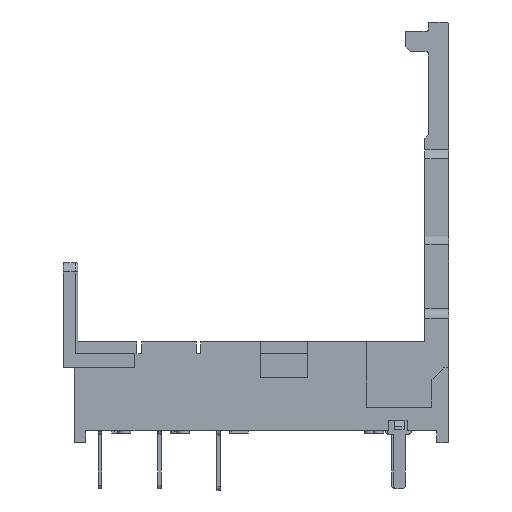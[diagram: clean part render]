
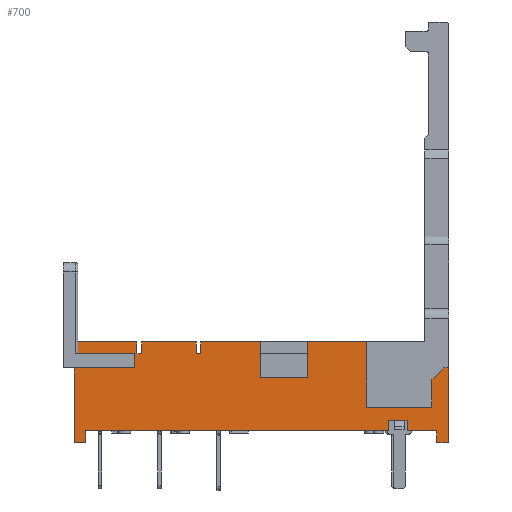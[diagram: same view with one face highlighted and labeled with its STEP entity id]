
A CAD part, front view. The second image highlights one B-rep face of the part: STEP entity #700.
In plain terms, the highlighted planar face has unit normal (0, -1, 0).
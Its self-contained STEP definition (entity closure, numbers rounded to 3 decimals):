
#700=ADVANCED_FACE('',(#2100),#1420,.T.);
#1420=PLANE('',#15637);
#2100=FACE_OUTER_BOUND('',#2885,.T.);
#2885=EDGE_LOOP('',(#8651,#8652,#8653,#8654,#8655,#8656,#8657,#8658,#8659,
#8660,#8661,#8662,#8663,#8664,#8665,#8666,#8667,#8668,#8669,#8670,#8671,
#8672,#8673,#8674,#8675,#8676,#8677,#8678,#8679,#8680,#8681,#8682,#8683));
#3866=LINE('',#21455,#5719);
#3914=LINE('',#21559,#5767);
#3944=LINE('',#21673,#5797);
#3950=LINE('',#21685,#5803);
#4068=LINE('',#21932,#5921);
#4071=LINE('',#21938,#5924);
#4075=LINE('',#21947,#5928);
#4079=LINE('',#21955,#5932);
#4082=LINE('',#21961,#5935);
#4087=LINE('',#21972,#5940);
#4091=LINE('',#21979,#5944);
#4092=LINE('',#21981,#5945);
#4097=LINE('',#21990,#5950);
#4101=LINE('',#21998,#5954);
#4105=LINE('',#22005,#5958);
#4123=LINE('',#22039,#5976);
#4130=LINE('',#22053,#5983);
#4139=LINE('',#22071,#5992);
#4150=LINE('',#22101,#6003);
#4151=LINE('',#22103,#6004);
#4152=LINE('',#22105,#6005);
#4153=LINE('',#22107,#6006);
#4154=LINE('',#22108,#6007);
#4155=LINE('',#22110,#6008);
#4156=LINE('',#22112,#6009);
#4157=LINE('',#22114,#6010);
#4158=LINE('',#22116,#6011);
#4159=LINE('',#22118,#6012);
#4160=LINE('',#22120,#6013);
#4161=LINE('',#22122,#6014);
#4162=LINE('',#22124,#6015);
#4163=LINE('',#22125,#6016);
#4164=LINE('',#22127,#6017);
#5719=VECTOR('',#17192,1.);
#5767=VECTOR('',#17248,1.);
#5797=VECTOR('',#17280,1.);
#5803=VECTOR('',#17286,1.);
#5921=VECTOR('',#17460,1.);
#5924=VECTOR('',#17465,1.);
#5928=VECTOR('',#17471,1.);
#5932=VECTOR('',#17477,1.);
#5935=VECTOR('',#17482,1.);
#5940=VECTOR('',#17489,1.);
#5944=VECTOR('',#17499,1.);
#5945=VECTOR('',#17502,1.);
#5950=VECTOR('',#17515,1.);
#5954=VECTOR('',#17523,1.);
#5958=VECTOR('',#17529,1.);
#5976=VECTOR('',#17567,1.);
#5983=VECTOR('',#17584,1.);
#5992=VECTOR('',#17601,1.);
#6003=VECTOR('',#17628,1.);
#6004=VECTOR('',#17631,1.);
#6005=VECTOR('',#17632,1.);
#6006=VECTOR('',#17633,1.);
#6007=VECTOR('',#17634,1.);
#6008=VECTOR('',#17635,1.);
#6009=VECTOR('',#17636,1.);
#6010=VECTOR('',#17637,1.);
#6011=VECTOR('',#17638,1.);
#6012=VECTOR('',#17639,1.);
#6013=VECTOR('',#17640,1.);
#6014=VECTOR('',#17641,1.);
#6015=VECTOR('',#17642,1.);
#6016=VECTOR('',#17643,1.);
#6017=VECTOR('',#17644,1.);
#8651=ORIENTED_EDGE('',*,*,#13842,.F.);
#8652=ORIENTED_EDGE('',*,*,#13843,.T.);
#8653=ORIENTED_EDGE('',*,*,#13844,.F.);
#8654=ORIENTED_EDGE('',*,*,#13591,.F.);
#8655=ORIENTED_EDGE('',*,*,#13792,.F.);
#8656=ORIENTED_EDGE('',*,*,#13774,.F.);
#8657=ORIENTED_EDGE('',*,*,#13817,.F.);
#8658=ORIENTED_EDGE('',*,*,#13769,.T.);
#8659=ORIENTED_EDGE('',*,*,#13766,.T.);
#8660=ORIENTED_EDGE('',*,*,#13762,.T.);
#8661=ORIENTED_EDGE('',*,*,#13758,.T.);
#8662=ORIENTED_EDGE('',*,*,#13778,.T.);
#8663=ORIENTED_EDGE('',*,*,#13632,.T.);
#8664=ORIENTED_EDGE('',*,*,#13779,.F.);
#8665=ORIENTED_EDGE('',*,*,#13755,.F.);
#8666=ORIENTED_EDGE('',*,*,#13784,.F.);
#8667=ORIENTED_EDGE('',*,*,#13626,.T.);
#8668=ORIENTED_EDGE('',*,*,#13845,.F.);
#8669=ORIENTED_EDGE('',*,*,#13846,.T.);
#8670=ORIENTED_EDGE('',*,*,#13847,.T.);
#8671=ORIENTED_EDGE('',*,*,#13848,.T.);
#8672=ORIENTED_EDGE('',*,*,#13849,.F.);
#8673=ORIENTED_EDGE('',*,*,#13850,.T.);
#8674=ORIENTED_EDGE('',*,*,#13851,.T.);
#8675=ORIENTED_EDGE('',*,*,#13852,.T.);
#8676=ORIENTED_EDGE('',*,*,#13853,.F.);
#8677=ORIENTED_EDGE('',*,*,#13826,.F.);
#8678=ORIENTED_EDGE('',*,*,#13841,.F.);
#8679=ORIENTED_EDGE('',*,*,#13854,.F.);
#8680=ORIENTED_EDGE('',*,*,#13855,.T.);
#8681=ORIENTED_EDGE('',*,*,#13810,.T.);
#8682=ORIENTED_EDGE('',*,*,#13788,.T.);
#8683=ORIENTED_EDGE('',*,*,#13539,.F.);
#11952=VERTEX_POINT('',#21434);
#11962=VERTEX_POINT('',#21454);
#11963=VERTEX_POINT('',#21456);
#12014=VERTEX_POINT('',#21558);
#12049=VERTEX_POINT('',#21672);
#12050=VERTEX_POINT('',#21674);
#12055=VERTEX_POINT('',#21684);
#12056=VERTEX_POINT('',#21686);
#12157=VERTEX_POINT('',#21933);
#12158=VERTEX_POINT('',#21934);
#12159=VERTEX_POINT('',#21939);
#12160=VERTEX_POINT('',#21940);
#12163=VERTEX_POINT('',#21948);
#12166=VERTEX_POINT('',#21956);
#12168=VERTEX_POINT('',#21962);
#12169=VERTEX_POINT('',#21966);
#12172=VERTEX_POINT('',#21971);
#12175=VERTEX_POINT('',#21999);
#12182=VERTEX_POINT('',#22037);
#12189=VERTEX_POINT('',#22070);
#12190=VERTEX_POINT('',#22072);
#12200=VERTEX_POINT('',#22100);
#12201=VERTEX_POINT('',#22104);
#12202=VERTEX_POINT('',#22106);
#12203=VERTEX_POINT('',#22109);
#12204=VERTEX_POINT('',#22111);
#12205=VERTEX_POINT('',#22113);
#12206=VERTEX_POINT('',#22115);
#12207=VERTEX_POINT('',#22117);
#12208=VERTEX_POINT('',#22119);
#12209=VERTEX_POINT('',#22121);
#12210=VERTEX_POINT('',#22123);
#12211=VERTEX_POINT('',#22126);
#13539=EDGE_CURVE('',#11962,#11963,#3866,.T.);
#13591=EDGE_CURVE('',#12014,#11952,#3914,.T.);
#13626=EDGE_CURVE('',#12050,#12049,#3944,.T.);
#13632=EDGE_CURVE('',#12056,#12055,#3950,.T.);
#13755=EDGE_CURVE('',#12157,#12158,#4068,.T.);
#13758=EDGE_CURVE('',#12159,#12160,#4071,.T.);
#13762=EDGE_CURVE('',#12163,#12159,#4075,.T.);
#13766=EDGE_CURVE('',#12166,#12163,#4079,.T.);
#13769=EDGE_CURVE('',#12168,#12166,#4082,.T.);
#13774=EDGE_CURVE('',#12172,#12169,#4087,.T.);
#13778=EDGE_CURVE('',#12160,#12056,#4091,.T.);
#13779=EDGE_CURVE('',#12158,#12055,#4092,.T.);
#13784=EDGE_CURVE('',#12050,#12157,#4097,.T.);
#13788=EDGE_CURVE('',#12175,#11963,#4101,.T.);
#13792=EDGE_CURVE('',#12169,#12014,#4105,.T.);
#13810=EDGE_CURVE('',#12182,#12175,#4123,.T.);
#13817=EDGE_CURVE('',#12168,#12172,#4130,.T.);
#13826=EDGE_CURVE('',#12189,#12190,#4139,.T.);
#13841=EDGE_CURVE('',#12200,#12189,#4150,.T.);
#13842=EDGE_CURVE('',#12201,#11962,#4151,.T.);
#13843=EDGE_CURVE('',#12201,#12202,#4152,.T.);
#13844=EDGE_CURVE('',#11952,#12202,#4153,.T.);
#13845=EDGE_CURVE('',#12203,#12049,#4154,.T.);
#13846=EDGE_CURVE('',#12203,#12204,#4155,.T.);
#13847=EDGE_CURVE('',#12204,#12205,#4156,.T.);
#13848=EDGE_CURVE('',#12205,#12206,#4157,.T.);
#13849=EDGE_CURVE('',#12207,#12206,#4158,.T.);
#13850=EDGE_CURVE('',#12207,#12208,#4159,.T.);
#13851=EDGE_CURVE('',#12208,#12209,#4160,.T.);
#13852=EDGE_CURVE('',#12209,#12210,#4161,.T.);
#13853=EDGE_CURVE('',#12190,#12210,#4162,.T.);
#13854=EDGE_CURVE('',#12211,#12200,#4163,.T.);
#13855=EDGE_CURVE('',#12211,#12182,#4164,.T.);
#15637=AXIS2_PLACEMENT_3D('',#22128,#17645,#17646);
#17192=DIRECTION('',(-1.,0.,0.));
#17248=DIRECTION('',(-1.,0.,0.));
#17280=DIRECTION('',(-1.,0.,0.));
#17286=DIRECTION('',(-1.,0.,0.));
#17460=DIRECTION('',(1.,0.,0.));
#17465=DIRECTION('',(-1.,0.,0.));
#17471=DIRECTION('',(0.,0.,-1.));
#17477=DIRECTION('',(-0.707,0.,-0.707));
#17482=DIRECTION('',(-1.,0.,0.));
#17489=DIRECTION('',(-1.,0.,0.));
#17499=DIRECTION('',(0.,0.,1.));
#17502=DIRECTION('',(0.,0.,1.));
#17515=DIRECTION('',(0.,0.,-1.));
#17523=DIRECTION('',(0.,0.,1.));
#17529=DIRECTION('',(0.,0.,1.));
#17567=DIRECTION('',(1.,0.,0.));
#17584=DIRECTION('',(0.,0.,-1.));
#17601=DIRECTION('',(-1.,0.,0.));
#17628=DIRECTION('',(0.,0.,1.));
#17631=DIRECTION('',(0.,0.,-1.));
#17632=DIRECTION('',(1.,0.,0.));
#17633=DIRECTION('',(0.,0.,1.));
#17634=DIRECTION('',(0.,0.,1.));
#17635=DIRECTION('',(-1.,0.,0.));
#17636=DIRECTION('',(0.,0.,1.));
#17637=DIRECTION('',(-1.,0.,0.));
#17638=DIRECTION('',(0.,0.,1.));
#17639=DIRECTION('',(-1.,0.,0.));
#17640=DIRECTION('',(0.,0.,1.));
#17641=DIRECTION('',(-1.,0.,0.));
#17642=DIRECTION('',(0.,0.,1.));
#17643=DIRECTION('',(1.,0.,0.));
#17644=DIRECTION('',(0.,0.,-1.));
#17645=DIRECTION('',(0.,-1.,0.));
#17646=DIRECTION('',(0.,0.,-1.));
#21434=CARTESIAN_POINT('',(-3.5,-6.5,0.));
#21454=CARTESIAN_POINT('',(-5.1,-6.5,0.));
#21455=CARTESIAN_POINT('',(0.,-6.5,0.));
#21456=CARTESIAN_POINT('',(-30.6,-6.5,0.));
#21558=CARTESIAN_POINT('',(-1.,-6.5,0.));
#21559=CARTESIAN_POINT('',(0.,-6.5,0.));
#21672=CARTESIAN_POINT('',(-20.9,-6.5,7.5));
#21673=CARTESIAN_POINT('',(0.,-6.5,7.5));
#21674=CARTESIAN_POINT('',(-15.9,-6.5,7.5));
#21684=CARTESIAN_POINT('',(-11.9,-6.5,7.5));
#21685=CARTESIAN_POINT('',(0.,-6.5,7.5));
#21686=CARTESIAN_POINT('',(-6.9,-6.5,7.5));
#21932=CARTESIAN_POINT('',(0.,-6.5,4.5));
#21933=CARTESIAN_POINT('',(-15.9,-6.5,4.5));
#21934=CARTESIAN_POINT('',(-11.9,-6.5,4.5));
#21938=CARTESIAN_POINT('',(0.,-6.5,2.));
#21939=CARTESIAN_POINT('',(-1.4,-6.5,2.));
#21940=CARTESIAN_POINT('',(-6.9,-6.5,2.));
#21947=CARTESIAN_POINT('',(-1.4,-6.5,7.5));
#21948=CARTESIAN_POINT('',(-1.4,-6.5,4.3));
#21955=CARTESIAN_POINT('',(0.9,-6.5,6.6));
#21956=CARTESIAN_POINT('',(-0.4,-6.5,5.3));
#21961=CARTESIAN_POINT('',(0.,-6.5,5.3));
#21962=CARTESIAN_POINT('',(0.,-6.5,5.3));
#21966=CARTESIAN_POINT('',(-1.,-6.5,-1.));
#21971=CARTESIAN_POINT('',(0.,-6.5,-1.));
#21972=CARTESIAN_POINT('',(0.,-6.5,-1.));
#21979=CARTESIAN_POINT('',(-6.9,-6.5,7.5));
#21981=CARTESIAN_POINT('',(-11.9,-6.5,7.5));
#21990=CARTESIAN_POINT('',(-15.9,-6.5,7.5));
#21998=CARTESIAN_POINT('',(-30.6,-6.5,-1.));
#21999=CARTESIAN_POINT('',(-30.6,-6.5,-1.));
#22005=CARTESIAN_POINT('',(-1.,-6.5,-1.));
#22037=CARTESIAN_POINT('',(-31.6,-6.5,-1.));
#22039=CARTESIAN_POINT('',(-31.6,-6.5,-1.));
#22053=CARTESIAN_POINT('',(0.,-6.5,7.5));
#22070=CARTESIAN_POINT('',(-26.5,-6.5,6.5));
#22071=CARTESIAN_POINT('',(0.,-6.5,6.5));
#22072=CARTESIAN_POINT('',(-31.3,-6.5,6.5));
#22100=CARTESIAN_POINT('',(-26.5,-6.5,5.3));
#22101=CARTESIAN_POINT('',(-26.5,-6.5,7.5));
#22103=CARTESIAN_POINT('',(-5.1,-6.5,7.5));
#22104=CARTESIAN_POINT('',(-5.1,-6.5,0.9));
#22105=CARTESIAN_POINT('',(0.,-6.5,0.9));
#22106=CARTESIAN_POINT('',(-3.5,-6.5,0.9));
#22107=CARTESIAN_POINT('',(-3.5,-6.5,7.5));
#22108=CARTESIAN_POINT('',(-20.9,-6.5,6.5));
#22109=CARTESIAN_POINT('',(-20.9,-6.5,6.5));
#22110=CARTESIAN_POINT('',(-20.9,-6.5,6.5));
#22111=CARTESIAN_POINT('',(-21.3,-6.5,6.5));
#22112=CARTESIAN_POINT('',(-21.3,-6.5,6.5));
#22113=CARTESIAN_POINT('',(-21.3,-6.5,7.5));
#22114=CARTESIAN_POINT('',(0.,-6.5,7.5));
#22115=CARTESIAN_POINT('',(-25.9,-6.5,7.5));
#22116=CARTESIAN_POINT('',(-25.9,-6.5,6.5));
#22117=CARTESIAN_POINT('',(-25.9,-6.5,6.5));
#22118=CARTESIAN_POINT('',(-25.9,-6.5,6.5));
#22119=CARTESIAN_POINT('',(-26.3,-6.5,6.5));
#22120=CARTESIAN_POINT('',(-26.3,-6.5,6.5));
#22121=CARTESIAN_POINT('',(-26.3,-6.5,7.5));
#22122=CARTESIAN_POINT('',(0.,-6.5,7.5));
#22123=CARTESIAN_POINT('',(-31.3,-6.5,7.5));
#22124=CARTESIAN_POINT('',(-31.3,-6.5,7.5));
#22125=CARTESIAN_POINT('',(0.,-6.5,5.3));
#22126=CARTESIAN_POINT('',(-31.6,-6.5,5.3));
#22127=CARTESIAN_POINT('',(-31.6,-6.5,7.5));
#22128=CARTESIAN_POINT('',(0.,-6.5,7.5));
